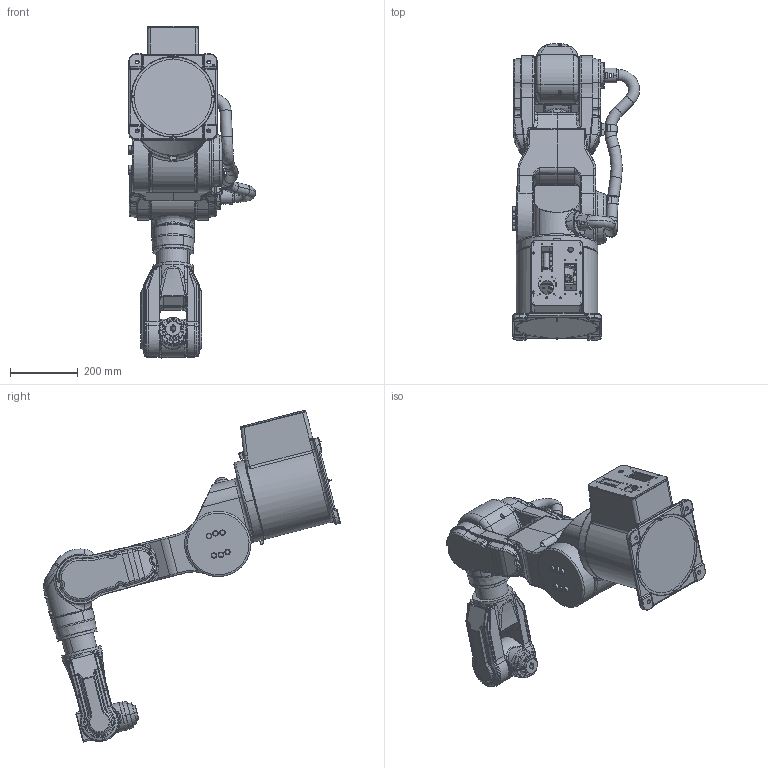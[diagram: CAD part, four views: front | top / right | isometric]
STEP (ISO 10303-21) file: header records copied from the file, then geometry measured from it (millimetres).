
FILE_DESCRIPTION((''),'2;1');
FILE_NAME('ASM0001_ASM','2026-06-22T18:37:29',('EBDGC-HG'),(''),'CREO PARAMETRIC BY PTC INC, 2021063','CREO PARAMETRIC BY PTC INC, 2021063','');
FILE_SCHEMA(('AUTOMOTIVE_DESIGN { 1 0 10303 214 1 1 1 1 }'));
Products named in the file (8): PRT0001; PRT0002; PRT0003; PRT0004; PRT0005; AB-50001_2_1_3_1_0012_ASM_2_ASM_ASM; 7; ASM0001_ASM
Assembly tree (7 placements, depth 2):
  ASM0001_ASM
    PRT0001
    PRT0002
    PRT0003
    PRT0004
    PRT0005
    AB-50001_2_1_3_1_0012_ASM_2_ASM_ASM
    7
Bounding box: 374.92 x 875.36 x 979.48 mm (x, y, z)
Volume: 173607.4 mm3; surface area: 2526156.5 mm2
Topology: 1 solids, 253 shells, 2493 faces, 8565 edges, 6198 vertices
Faces by surface type: cylinder 1063, plane 557, torus 330, bspline 263, cone 246, sphere 26, extrusion 8
Entity records: 131691 total; most frequent: CARTESIAN_POINT 43820, DIRECTION 16445, ORIENTED_EDGE 13421, EDGE_CURVE 8538, AXIS2_PLACEMENT_3D 6743, VERTEX_POINT 6198, CIRCLE 4428, VECTOR 2936
